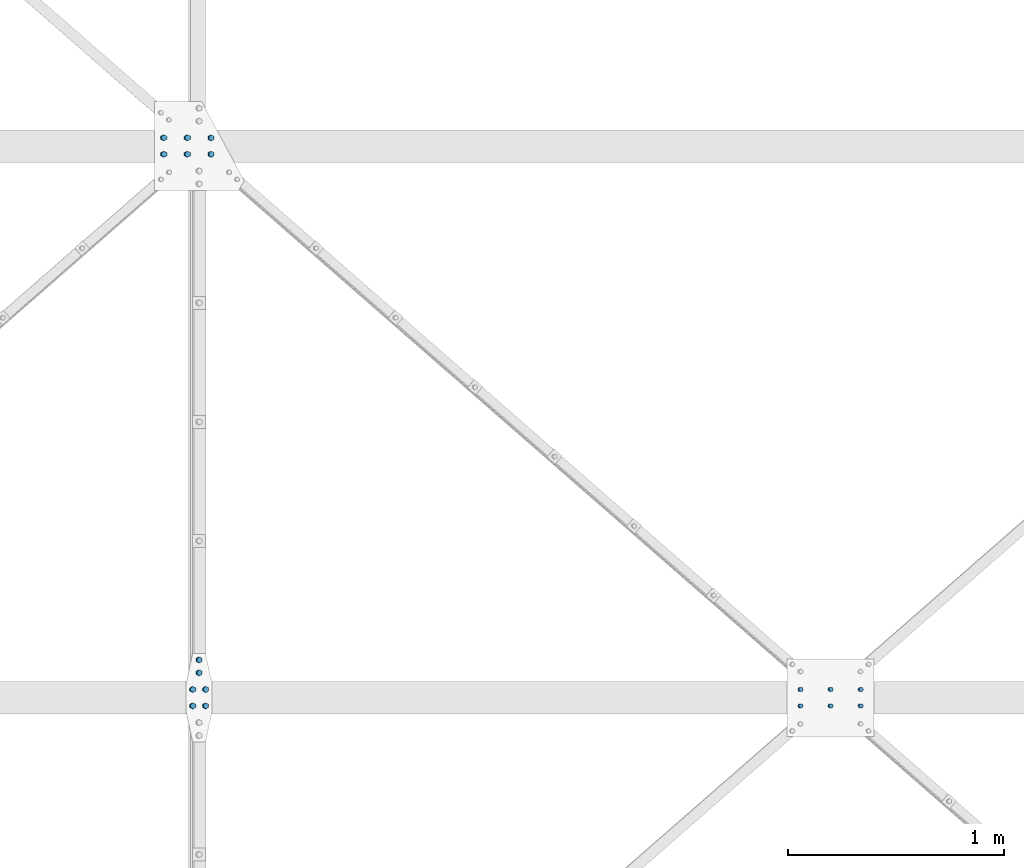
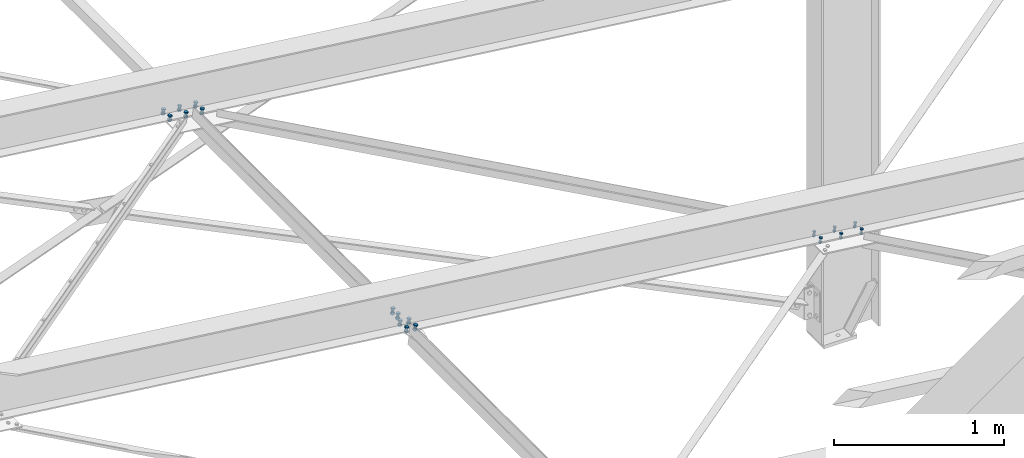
# One storey, part 122 of 3134: 4 mechanical fasteners, 4 elements without a shape of their own.
"""IFC2X3 building model written with IfcOpenShell, lengths in millimetres."""

from ifc_helpers import new_model, si_unit, frame, origin_with_axes, place, context, subcontext, project, spatial, faceted_brep, source, transform, mapped, material, type_object, element, aggregate, save


model = new_model("IFC2X3")

# Units and contexts
model_context = context("Model", 3, precision=1e-05, world=origin_with_axes())
body_context = subcontext(model_context, "Body", "Model", "MODEL_VIEW")
ifc_project = project(units=[si_unit("LENGTHUNIT", "METRE", prefix="MILLI"), si_unit("AREAUNIT", "SQUARE_METRE"), si_unit("VOLUMEUNIT", "CUBIC_METRE"), si_unit("MASSUNIT", "GRAM", prefix="KILO"), si_unit("TIMEUNIT", "SECOND"), si_unit("PLANEANGLEUNIT", "RADIAN"), si_unit("SOLIDANGLEUNIT", "STERADIAN"), si_unit("THERMODYNAMICTEMPERATUREUNIT", "DEGREE_CELSIUS"), si_unit("LUMINOUSINTENSITYUNIT", "LUMEN")], contexts=[model_context])

# Site, building, storey
site_placement = place(None, origin_with_axes())
site = spatial("IfcSite", under=ifc_project, at=site_placement, CompositionType="ELEMENT")
building_placement = place(site_placement, origin_with_axes())
building = spatial("IfcBuilding", under=site, at=building_placement, Name="Undefined", CompositionType="ELEMENT")
storey_placement = place(building_placement, origin_with_axes())
storey = spatial("IfcBuildingStorey", under=building, at=storey_placement, Name="Undefined", CompositionType="ELEMENT", Elevation=0.0)

# Assembly, mechanical fastener
assembly_1_placement = place(storey_placement, origin_with_axes())
assembly_1 = element("IfcElementAssembly", 1, at=assembly_1_placement, inside=storey, AssemblyPlace="NOTDEFINED", PredefinedType="RIGID_FRAME")
ifc_material = material(Name="8.8")
mechanical_fastener_type = type_object("IfcMechanicalFastenerType", Name="Bolt assembly")
shared_shape_1 = source(origin_with_axes(), body_context, "Body", "Brep", [
    faceted_brep([(13.856406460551, -16.9990000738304, 0.0), (6.92820323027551, -16.9990000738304, 12.0), (-6.92820323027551, -16.9990000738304, 12.0), (-13.856406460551, -16.9990000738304, 1.69692038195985e-15), (-6.92820323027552, -16.9990000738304, -12.0), (6.9282032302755, -16.9990000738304, -12.0), (6.9282032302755, -6.99900007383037, -12.0), (-6.92820323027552, -6.99900007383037, -12.0), (-13.856406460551, -6.99900007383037, 1.69692038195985e-15), (-6.92820323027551, -6.99900007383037, 12.0), (6.92820323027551, -6.99900007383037, 12.0), (13.856406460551, -6.99900007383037, 0.0), (8.0, -6.99900007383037, 0.0), (6.92820323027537, -6.99900007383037, 4.00000000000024), (3.99999999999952, -6.99900007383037, 6.92820323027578), (-8.29068785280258e-13, -6.99900007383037, 8.0), (-4.00000000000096, -6.99900007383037, 6.92820323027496), (-6.9282032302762, -6.99900007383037, 3.99999999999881), (-8.0, -6.99900007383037, -1.65813757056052e-12), (-6.92820323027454, -6.99900007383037, -4.00000000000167), (-3.99999999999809, -6.99900007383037, -6.92820323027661), (2.47832457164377e-12, -6.99900007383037, -8.0), (4.00000000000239, -6.99900007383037, -6.92820323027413), (6.92820323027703, -6.99900007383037, -3.99999999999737), (6.92820323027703, 33.0009999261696, -3.99999999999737), (4.00000000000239, 33.0009999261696, -6.92820323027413), (2.47832457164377e-12, 33.0009999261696, -8.0), (-3.99999999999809, 33.0009999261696, -6.92820323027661), (-6.92820323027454, 33.0009999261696, -4.00000000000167), (-8.0, 33.0009999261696, -1.65813757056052e-12), (-6.9282032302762, 33.0009999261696, 3.99999999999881), (-4.00000000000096, 33.0009999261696, 6.92820323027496), (-8.29068785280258e-13, 33.0009999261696, 8.0), (3.99999999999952, 33.0009999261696, 6.92820323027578), (6.92820323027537, 33.0009999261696, 4.00000000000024), (8.0, 33.0009999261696, 0.0), (13.856406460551, 14.9990000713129, 0.0), (6.92820323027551, 14.9990000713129, 12.0), (-6.92820323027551, 14.9990000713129, 12.0), (-13.856406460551, 14.9990000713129, 1.69692038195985e-15), (-6.92820323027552, 14.9990000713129, -12.0), (6.9282032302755, 14.9990000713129, -12.0), (6.9282032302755, 27.9990000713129, -12.0), (-6.92820323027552, 27.9990000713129, -12.0), (-13.856406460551, 27.9990000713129, 1.69692038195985e-15), (-6.92820323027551, 27.9990000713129, 12.0), (6.92820323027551, 27.9990000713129, 12.0), (13.856406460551, 27.9990000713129, 0.0)], [[[0, 1, 2, 3, 4, 5]], [[6, 7, 8, 9, 10, 11]], [[0, 11, 10, 1]], [[1, 10, 9, 2]], [[2, 9, 8, 3]], [[3, 8, 7, 4]], [[4, 7, 6, 5]], [[5, 6, 11, 0]], [[12, 13, 14, 15, 16, 17, 18, 19, 20, 21, 22, 23]], [[24, 25, 26, 27, 28, 29, 30, 31, 32, 33, 34, 35]], [[12, 35, 34, 13]], [[13, 34, 33, 14]], [[14, 33, 32, 15]], [[15, 32, 31, 16]], [[16, 31, 30, 17]], [[17, 30, 29, 18]], [[18, 29, 28, 19]], [[19, 28, 27, 20]], [[20, 27, 26, 21]], [[21, 26, 25, 22]], [[22, 25, 24, 23]], [[23, 24, 35, 12]], [[36, 37, 38, 39, 40, 41]], [[42, 43, 44, 45, 46, 47]], [[36, 47, 46, 37]], [[37, 46, 45, 38]], [[38, 45, 44, 39]], [[39, 44, 43, 40]], [[40, 43, 42, 41]], [[41, 42, 47, 36]]]),
    faceted_brep([(9.0, -3.46568413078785e-07, 0.0), (7.79422863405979, -3.46568413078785e-07, 4.50000000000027), (4.49999999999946, -3.46568413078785e-07, 7.79422863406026), (-9.3270238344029e-13, -3.46568413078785e-07, 9.0), (-4.50000000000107, -3.46568413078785e-07, 7.79422863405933), (-7.79422863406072, -3.46568413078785e-07, 4.49999999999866), (-9.0, -3.46568413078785e-07, -1.86540476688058e-12), (-7.79422863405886, -3.46568413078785e-07, -4.50000000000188), (-4.49999999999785, -3.46568413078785e-07, -7.79422863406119), (2.78811514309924e-12, -3.46568413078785e-07, -9.0), (4.50000000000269, -3.46568413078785e-07, -7.7942286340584), (7.79422863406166, -3.46568413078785e-07, -4.49999999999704), (7.79422863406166, 8.00000000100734, -4.49999999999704), (4.50000000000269, 8.00000000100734, -7.7942286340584), (2.78811514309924e-12, 8.00000000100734, -9.0), (-4.49999999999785, 8.00000000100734, -7.79422863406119), (-7.79422863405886, 8.00000000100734, -4.50000000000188), (-9.0, 8.00000000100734, -1.86540476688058e-12), (-7.79422863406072, 8.00000000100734, 4.49999999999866), (-4.50000000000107, 8.00000000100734, 7.79422863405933), (-9.3270238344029e-13, 8.00000000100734, 9.0), (4.49999999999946, 8.00000000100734, 7.79422863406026), (7.79422863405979, 8.00000000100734, 4.50000000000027), (9.0, 8.00000000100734, 0.0), (9.0, -6.89900007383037, 0.0), (7.79422863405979, -6.89900007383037, 4.50000000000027), (4.49999999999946, -6.89900007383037, 7.79422863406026), (-9.3270238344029e-13, -6.89900007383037, 9.0), (-4.50000000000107, -6.89900007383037, 7.79422863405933), (-7.79422863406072, -6.89900007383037, 4.49999999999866), (-9.0, -6.89900007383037, -1.86540476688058e-12), (-7.79422863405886, -6.89900007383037, -4.50000000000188), (-4.49999999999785, -6.89900007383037, -7.79422863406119), (2.78811514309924e-12, -6.89900007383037, -9.0), (4.50000000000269, -6.89900007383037, -7.7942286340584), (7.79422863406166, -6.89900007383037, -4.49999999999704), (7.79422863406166, 0.100999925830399, -4.49999999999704), (4.50000000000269, 0.100999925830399, -7.7942286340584), (2.78811514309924e-12, 0.100999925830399, -9.0), (-4.49999999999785, 0.100999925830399, -7.79422863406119), (-7.79422863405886, 0.100999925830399, -4.50000000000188), (-9.0, 0.100999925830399, -1.86540476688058e-12), (-7.79422863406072, 0.100999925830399, 4.49999999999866), (-4.50000000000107, 0.100999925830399, 7.79422863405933), (-9.3270238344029e-13, 0.100999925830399, 9.0), (4.49999999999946, 0.100999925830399, 7.79422863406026), (7.79422863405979, 0.100999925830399, 4.50000000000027), (9.0, 0.100999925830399, 0.0), (9.0, 7.89900007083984, 0.0), (7.79422863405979, 7.89900007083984, 4.50000000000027), (4.49999999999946, 7.89900007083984, 7.79422863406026), (-9.3270238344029e-13, 7.89900007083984, 9.0), (-4.50000000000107, 7.89900007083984, 7.79422863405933), (-7.79422863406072, 7.89900007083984, 4.49999999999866), (-9.0, 7.89900007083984, -1.86540476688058e-12), (-7.79422863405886, 7.89900007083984, -4.50000000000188), (-4.49999999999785, 7.89900007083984, -7.79422863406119), (2.78811514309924e-12, 7.89900007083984, -9.0), (4.50000000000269, 7.89900007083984, -7.7942286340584), (7.79422863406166, 7.89900007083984, -4.49999999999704), (7.79422863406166, 14.9990000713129, -4.49999999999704), (4.50000000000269, 14.9990000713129, -7.7942286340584), (2.78811514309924e-12, 14.9990000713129, -9.0), (-4.49999999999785, 14.9990000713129, -7.79422863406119), (-7.79422863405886, 14.9990000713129, -4.50000000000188), (-9.0, 14.9990000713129, -1.86540476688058e-12), (-7.79422863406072, 14.9990000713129, 4.49999999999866), (-4.50000000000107, 14.9990000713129, 7.79422863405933), (-9.3270238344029e-13, 14.9990000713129, 9.0), (4.49999999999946, 14.9990000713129, 7.79422863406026), (7.79422863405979, 14.9990000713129, 4.50000000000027), (9.0, 14.9990000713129, 0.0)], [[[0, 1, 2, 3, 4, 5, 6, 7, 8, 9, 10, 11]], [[12, 13, 14, 15, 16, 17, 18, 19, 20, 21, 22, 23]], [[0, 23, 22, 1]], [[1, 22, 21, 2]], [[2, 21, 20, 3]], [[3, 20, 19, 4]], [[4, 19, 18, 5]], [[5, 18, 17, 6]], [[6, 17, 16, 7]], [[7, 16, 15, 8]], [[8, 15, 14, 9]], [[9, 14, 13, 10]], [[10, 13, 12, 11]], [[11, 12, 23, 0]], [[24, 25, 26, 27, 28, 29, 30, 31, 32, 33, 34, 35]], [[36, 37, 38, 39, 40, 41, 42, 43, 44, 45, 46, 47]], [[24, 47, 46, 25]], [[25, 46, 45, 26]], [[26, 45, 44, 27]], [[27, 44, 43, 28]], [[28, 43, 42, 29]], [[29, 42, 41, 30]], [[30, 41, 40, 31]], [[31, 40, 39, 32]], [[32, 39, 38, 33]], [[33, 38, 37, 34]], [[34, 37, 36, 35]], [[35, 36, 47, 24]], [[48, 49, 50, 51, 52, 53, 54, 55, 56, 57, 58, 59]], [[60, 61, 62, 63, 64, 65, 66, 67, 68, 69, 70, 71]], [[48, 71, 70, 49]], [[49, 70, 69, 50]], [[50, 69, 68, 51]], [[51, 68, 67, 52]], [[52, 67, 66, 53]], [[53, 66, 65, 54]], [[54, 65, 64, 55]], [[55, 64, 63, 56]], [[56, 63, 62, 57]], [[57, 62, 61, 58]], [[58, 61, 60, 59]], [[59, 60, 71, 48]]]),
])
mechanical_fastener_1_placement = place(assembly_1_placement, frame((50037.9849612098, 2665.0, 4806.73358921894), z_axis=(-0.992623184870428, 0.0, 0.121240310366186), x_axis=(0.0, 1.0, 0.0)))
mechanical_fastener_1 = element("IfcMechanicalFastener", 2, at=mechanical_fastener_1_placement, type_object=mechanical_fastener_type, material=ifc_material, Name="Bolt assembly", NominalDiameter=16.0, NominalLength=40.0, context=body_context, shape_type="MappedRepresentation", body=[
    mapped(shared_shape_1, transform((0.0, 0.0, 0.0))),
    mapped(shared_shape_1, transform((59.9999999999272, 0.0, 5.40239852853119e-10))),
])
aggregate(assembly_1, [mechanical_fastener_1])

assembly_2_placement = place(storey_placement, origin_with_axes())
assembly_2 = element("IfcElementAssembly", 3, at=assembly_2_placement, inside=storey, Name="PL8", AssemblyPlace="NOTDEFINED", PredefinedType="RIGID_FRAME")
shared_shape_2 = source(origin_with_axes(), body_context, "Body", "Brep", [
    faceted_brep([(13.856406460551, -19.2001597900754, 0.0), (6.92820323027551, -19.2001597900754, 12.0), (-6.92820323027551, -19.2001597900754, 12.0), (-13.856406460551, -19.2001597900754, 1.69692038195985e-15), (-6.92820323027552, -19.2001597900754, -12.0), (6.9282032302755, -19.2001597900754, -12.0), (6.9282032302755, -9.20015979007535, -12.0), (-6.92820323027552, -9.20015979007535, -12.0), (-13.856406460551, -9.20015979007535, 1.69692038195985e-15), (-6.92820323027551, -9.20015979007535, 12.0), (6.92820323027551, -9.20015979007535, 12.0), (13.856406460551, -9.20015979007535, 0.0), (8.0, -9.20015979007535, 0.0), (6.92820323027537, -9.20015979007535, 4.00000000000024), (3.99999999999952, -9.20015979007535, 6.92820323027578), (-8.29068785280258e-13, -9.20015979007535, 8.0), (-4.00000000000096, -9.20015979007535, 6.92820323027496), (-6.9282032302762, -9.20015979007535, 3.99999999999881), (-8.0, -9.20015979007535, -1.65813757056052e-12), (-6.92820323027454, -9.20015979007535, -4.00000000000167), (-3.99999999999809, -9.20015979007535, -6.92820323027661), (2.47832457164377e-12, -9.20015979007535, -8.0), (4.00000000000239, -9.20015979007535, -6.92820323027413), (6.92820323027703, -9.20015979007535, -3.99999999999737), (6.92820323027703, 25.7998402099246, -3.99999999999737), (4.00000000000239, 25.7998402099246, -6.92820323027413), (2.47832457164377e-12, 25.7998402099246, -8.0), (-3.99999999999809, 25.7998402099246, -6.92820323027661), (-6.92820323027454, 25.7998402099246, -4.00000000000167), (-8.0, 25.7998402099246, -1.65813757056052e-12), (-6.9282032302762, 25.7998402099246, 3.99999999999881), (-4.00000000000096, 25.7998402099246, 6.92820323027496), (-8.29068785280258e-13, 25.7998402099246, 8.0), (3.99999999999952, 25.7998402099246, 6.92820323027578), (6.92820323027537, 25.7998402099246, 4.00000000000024), (8.0, 25.7998402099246, 0.0), (13.856406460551, 7.9998399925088, 0.0), (6.92820323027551, 7.9998399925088, 12.0), (-6.92820323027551, 7.9998399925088, 12.0), (-13.856406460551, 7.9998399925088, 1.69692038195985e-15), (-6.92820323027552, 7.9998399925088, -12.0), (6.9282032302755, 7.9998399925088, -12.0), (6.9282032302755, 20.9998399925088, -12.0), (-6.92820323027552, 20.9998399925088, -12.0), (-13.856406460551, 20.9998399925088, 1.69692038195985e-15), (-6.92820323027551, 20.9998399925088, 12.0), (6.92820323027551, 20.9998399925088, 12.0), (13.856406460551, 20.9998399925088, 0.0)], [[[0, 1, 2, 3, 4, 5]], [[6, 7, 8, 9, 10, 11]], [[0, 11, 10, 1]], [[1, 10, 9, 2]], [[2, 9, 8, 3]], [[3, 8, 7, 4]], [[4, 7, 6, 5]], [[5, 6, 11, 0]], [[12, 13, 14, 15, 16, 17, 18, 19, 20, 21, 22, 23]], [[24, 25, 26, 27, 28, 29, 30, 31, 32, 33, 34, 35]], [[12, 35, 34, 13]], [[13, 34, 33, 14]], [[14, 33, 32, 15]], [[15, 32, 31, 16]], [[16, 31, 30, 17]], [[17, 30, 29, 18]], [[18, 29, 28, 19]], [[19, 28, 27, 20]], [[20, 27, 26, 21]], [[21, 26, 25, 22]], [[22, 25, 24, 23]], [[23, 24, 35, 12]], [[36, 37, 38, 39, 40, 41]], [[42, 43, 44, 45, 46, 47]], [[36, 47, 46, 37]], [[37, 46, 45, 38]], [[38, 45, 44, 39]], [[39, 44, 43, 40]], [[40, 43, 42, 41]], [[41, 42, 47, 36]]]),
    faceted_brep([(9.0, -9.10015979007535, 0.0), (7.79422863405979, -9.10015979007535, 4.50000000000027), (4.49999999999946, -9.10015979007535, 7.79422863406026), (-9.3270238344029e-13, -9.10015979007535, 9.0), (-4.50000000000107, -9.10015979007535, 7.79422863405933), (-7.79422863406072, -9.10015979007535, 4.49999999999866), (-9.0, -9.10015979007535, -1.86540476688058e-12), (-7.79422863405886, -9.10015979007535, -4.50000000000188), (-4.49999999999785, -9.10015979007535, -7.79422863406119), (2.78811514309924e-12, -9.10015979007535, -9.0), (4.50000000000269, -9.10015979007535, -7.7942286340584), (7.79422863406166, -9.10015979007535, -4.49999999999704), (7.79422863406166, 0.0998400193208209, -4.49999999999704), (4.50000000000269, 0.0998400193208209, -7.7942286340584), (2.78811514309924e-12, 0.0998400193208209, -9.0), (-4.49999999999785, 0.0998400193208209, -7.79422863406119), (-7.79422863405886, 0.0998400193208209, -4.50000000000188), (-9.0, 0.0998400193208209, -1.86540476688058e-12), (-7.79422863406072, 0.0998400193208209, 4.49999999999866), (-4.50000000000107, 0.0998400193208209, 7.79422863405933), (-9.3270238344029e-13, 0.0998400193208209, 9.0), (4.49999999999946, 0.0998400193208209, 7.79422863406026), (7.79422863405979, 0.0998400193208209, 4.50000000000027), (9.0, 0.0998400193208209, 0.0), (9.0, -0.100160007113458, 0.0), (7.79422863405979, -0.100160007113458, 4.50000000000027), (4.49999999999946, -0.100160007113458, 7.79422863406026), (-9.3270238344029e-13, -0.100160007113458, 9.0), (-4.50000000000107, -0.100160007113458, 7.79422863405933), (-7.79422863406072, -0.100160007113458, 4.49999999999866), (-9.0, -0.100160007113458, -1.86540476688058e-12), (-7.79422863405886, -0.100160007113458, -4.50000000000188), (-4.49999999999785, -0.100160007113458, -7.79422863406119), (2.78811514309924e-12, -0.100160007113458, -9.0), (4.50000000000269, -0.100160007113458, -7.7942286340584), (7.79422863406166, -0.100160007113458, -4.49999999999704), (7.79422863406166, 7.9998399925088, -4.49999999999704), (4.50000000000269, 7.9998399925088, -7.7942286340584), (2.78811514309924e-12, 7.9998399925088, -9.0), (-4.49999999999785, 7.9998399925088, -7.79422863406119), (-7.79422863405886, 7.9998399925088, -4.50000000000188), (-9.0, 7.9998399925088, -1.86540476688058e-12), (-7.79422863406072, 7.9998399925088, 4.49999999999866), (-4.50000000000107, 7.9998399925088, 7.79422863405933), (-9.3270238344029e-13, 7.9998399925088, 9.0), (4.49999999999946, 7.9998399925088, 7.79422863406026), (7.79422863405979, 7.9998399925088, 4.50000000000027), (9.0, 7.9998399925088, 0.0)], [[[0, 1, 2, 3, 4, 5, 6, 7, 8, 9, 10, 11]], [[12, 13, 14, 15, 16, 17, 18, 19, 20, 21, 22, 23]], [[0, 23, 22, 1]], [[1, 22, 21, 2]], [[2, 21, 20, 3]], [[3, 20, 19, 4]], [[4, 19, 18, 5]], [[5, 18, 17, 6]], [[6, 17, 16, 7]], [[7, 16, 15, 8]], [[8, 15, 14, 9]], [[9, 14, 13, 10]], [[10, 13, 12, 11]], [[11, 12, 23, 0]], [[24, 25, 26, 27, 28, 29, 30, 31, 32, 33, 34, 35]], [[36, 37, 38, 39, 40, 41, 42, 43, 44, 45, 46, 47]], [[24, 47, 46, 25]], [[25, 46, 45, 26]], [[26, 45, 44, 27]], [[27, 44, 43, 28]], [[28, 43, 42, 29]], [[29, 42, 41, 30]], [[30, 41, 40, 31]], [[31, 40, 39, 32]], [[32, 39, 38, 33]], [[33, 38, 37, 34]], [[34, 37, 36, 35]], [[35, 36, 47, 24]]]),
])
mechanical_fastener_2_placement = place(assembly_2_placement, frame((50037.984961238, 2512.0, 4806.73358921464), z_axis=(-0.992622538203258, 0.0, 0.121245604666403), x_axis=(0.0, 1.0, 0.0)))
mechanical_fastener_2 = element("IfcMechanicalFastener", 4, at=mechanical_fastener_2_placement, type_object=mechanical_fastener_type, material=ifc_material, Name="Bolt assembly", NominalDiameter=16.0, NominalLength=35.0, context=body_context, shape_type="MappedRepresentation", body=[
    mapped(shared_shape_2, transform((0.0, 4.54747350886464e-13, -30.0000000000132))),
    mapped(shared_shape_2, transform((76.0, -2.00088834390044e-10, -29.9999999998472))),
    mapped(shared_shape_2, transform((0.0, 4.54747350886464e-13, 30.0000000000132))),
    mapped(shared_shape_2, transform((76.0, 1.98269844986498e-10, 29.9999999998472))),
])
aggregate(assembly_2, [mechanical_fastener_2])

assembly_3_placement = place(storey_placement, origin_with_axes())
assembly_3 = element("IfcElementAssembly", 5, at=assembly_3_placement, inside=storey, Name="300", AssemblyPlace="NOTDEFINED", PredefinedType="RIGID_FRAME")
shared_shape_3 = source(origin_with_axes(), body_context, "Body", "Brep", [
    faceted_brep([(13.856406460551, -19.199990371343, 0.0), (6.92820323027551, -19.199990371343, 12.0), (-6.92820323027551, -19.199990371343, 12.0), (-13.856406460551, -19.199990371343, 1.69692038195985e-15), (-6.92820323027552, -19.199990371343, -12.0), (6.9282032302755, -19.199990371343, -12.0), (6.9282032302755, -9.19999037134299, -12.0), (-6.92820323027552, -9.19999037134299, -12.0), (-13.856406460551, -9.19999037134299, 1.69692038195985e-15), (-6.92820323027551, -9.19999037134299, 12.0), (6.92820323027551, -9.19999037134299, 12.0), (13.856406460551, -9.19999037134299, 0.0), (8.0, -9.19999037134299, 0.0), (6.92820323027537, -9.19999037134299, 4.00000000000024), (3.99999999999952, -9.19999037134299, 6.92820323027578), (-8.29068785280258e-13, -9.19999037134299, 8.0), (-4.00000000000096, -9.19999037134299, 6.92820323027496), (-6.9282032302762, -9.19999037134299, 3.99999999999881), (-8.0, -9.19999037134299, -1.65813757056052e-12), (-6.92820323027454, -9.19999037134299, -4.00000000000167), (-3.99999999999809, -9.19999037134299, -6.92820323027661), (2.47832457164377e-12, -9.19999037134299, -8.0), (4.00000000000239, -9.19999037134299, -6.92820323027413), (6.92820323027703, -9.19999037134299, -3.99999999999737), (6.92820323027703, 25.800009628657, -3.99999999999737), (4.00000000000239, 25.800009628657, -6.92820323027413), (2.47832457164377e-12, 25.800009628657, -8.0), (-3.99999999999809, 25.800009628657, -6.92820323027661), (-6.92820323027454, 25.800009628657, -4.00000000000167), (-8.0, 25.800009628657, -1.65813757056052e-12), (-6.9282032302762, 25.800009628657, 3.99999999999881), (-4.00000000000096, 25.800009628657, 6.92820323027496), (-8.29068785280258e-13, 25.800009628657, 8.0), (3.99999999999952, 25.800009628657, 6.92820323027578), (6.92820323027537, 25.800009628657, 4.00000000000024), (8.0, 25.800009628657, 0.0), (13.856406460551, 8.00000637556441, 0.0), (6.92820323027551, 8.00000637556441, 12.0), (-6.92820323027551, 8.00000637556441, 12.0), (-13.856406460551, 8.00000637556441, 1.69692038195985e-15), (-6.92820323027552, 8.00000637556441, -12.0), (6.9282032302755, 8.00000637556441, -12.0), (6.9282032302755, 21.0000063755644, -12.0), (-6.92820323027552, 21.0000063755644, -12.0), (-13.856406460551, 21.0000063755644, 1.69692038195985e-15), (-6.92820323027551, 21.0000063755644, 12.0), (6.92820323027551, 21.0000063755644, 12.0), (13.856406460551, 21.0000063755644, 0.0)], [[[0, 1, 2, 3, 4, 5]], [[6, 7, 8, 9, 10, 11]], [[0, 11, 10, 1]], [[1, 10, 9, 2]], [[2, 9, 8, 3]], [[3, 8, 7, 4]], [[4, 7, 6, 5]], [[5, 6, 11, 0]], [[12, 13, 14, 15, 16, 17, 18, 19, 20, 21, 22, 23]], [[24, 25, 26, 27, 28, 29, 30, 31, 32, 33, 34, 35]], [[12, 35, 34, 13]], [[13, 34, 33, 14]], [[14, 33, 32, 15]], [[15, 32, 31, 16]], [[16, 31, 30, 17]], [[17, 30, 29, 18]], [[18, 29, 28, 19]], [[19, 28, 27, 20]], [[20, 27, 26, 21]], [[21, 26, 25, 22]], [[22, 25, 24, 23]], [[23, 24, 35, 12]], [[36, 37, 38, 39, 40, 41]], [[42, 43, 44, 45, 46, 47]], [[36, 47, 46, 37]], [[37, 46, 45, 38]], [[38, 45, 44, 39]], [[39, 44, 43, 40]], [[40, 43, 42, 41]], [[41, 42, 47, 36]]]),
    faceted_brep([(9.0, -0.1, 0.0), (7.79422863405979, -0.1, 4.50000000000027), (4.49999999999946, -0.1, 7.79422863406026), (-9.3270238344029e-13, -0.1, 9.0), (-4.50000000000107, -0.1, 7.79422863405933), (-7.79422863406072, -0.1, 4.49999999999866), (-9.0, -0.1, -1.86540476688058e-12), (-7.79422863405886, -0.1, -4.50000000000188), (-4.49999999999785, -0.1, -7.79422863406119), (2.78811514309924e-12, -0.1, -9.0), (4.50000000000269, -0.1, -7.7942286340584), (7.79422863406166, -0.1, -4.49999999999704), (7.79422863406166, 8.00000000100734, -4.49999999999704), (4.50000000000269, 8.00000000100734, -7.7942286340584), (2.78811514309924e-12, 8.00000000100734, -9.0), (-4.49999999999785, 8.00000000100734, -7.79422863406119), (-7.79422863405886, 8.00000000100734, -4.50000000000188), (-9.0, 8.00000000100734, -1.86540476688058e-12), (-7.79422863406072, 8.00000000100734, 4.49999999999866), (-4.50000000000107, 8.00000000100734, 7.79422863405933), (-9.3270238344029e-13, 8.00000000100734, 9.0), (4.49999999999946, 8.00000000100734, 7.79422863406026), (7.79422863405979, 8.00000000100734, 4.50000000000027), (9.0, 8.00000000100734, 0.0), (9.0, -9.09999037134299, 0.0), (7.79422863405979, -9.09999037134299, 4.50000000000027), (4.49999999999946, -9.09999037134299, 7.79422863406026), (-9.3270238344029e-13, -9.09999037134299, 9.0), (-4.50000000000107, -9.09999037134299, 7.79422863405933), (-7.79422863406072, -9.09999037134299, 4.49999999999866), (-9.0, -9.09999037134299, -1.86540476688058e-12), (-7.79422863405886, -9.09999037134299, -4.50000000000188), (-4.49999999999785, -9.09999037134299, -7.79422863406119), (2.78811514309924e-12, -9.09999037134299, -9.0), (4.50000000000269, -9.09999037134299, -7.7942286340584), (7.79422863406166, -9.09999037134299, -4.49999999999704), (7.79422863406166, 0.100000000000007, -4.49999999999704), (4.50000000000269, 0.100000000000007, -7.7942286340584), (2.78811514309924e-12, 0.100000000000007, -9.0), (-4.49999999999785, 0.100000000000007, -7.79422863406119), (-7.79422863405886, 0.100000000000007, -4.50000000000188), (-9.0, 0.100000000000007, -1.86540476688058e-12), (-7.79422863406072, 0.100000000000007, 4.49999999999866), (-4.50000000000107, 0.100000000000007, 7.79422863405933), (-9.3270238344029e-13, 0.100000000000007, 9.0), (4.49999999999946, 0.100000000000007, 7.79422863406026), (7.79422863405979, 0.100000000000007, 4.50000000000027), (9.0, 0.100000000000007, 0.0)], [[[0, 1, 2, 3, 4, 5, 6, 7, 8, 9, 10, 11]], [[12, 13, 14, 15, 16, 17, 18, 19, 20, 21, 22, 23]], [[0, 23, 22, 1]], [[1, 22, 21, 2]], [[2, 21, 20, 3]], [[3, 20, 19, 4]], [[4, 19, 18, 5]], [[5, 18, 17, 6]], [[6, 17, 16, 7]], [[7, 16, 15, 8]], [[8, 15, 14, 9]], [[9, 14, 13, 10]], [[10, 13, 12, 11]], [[11, 12, 23, 0]], [[24, 25, 26, 27, 28, 29, 30, 31, 32, 33, 34, 35]], [[36, 37, 38, 39, 40, 41, 42, 43, 44, 45, 46, 47]], [[24, 47, 46, 25]], [[25, 46, 45, 26]], [[26, 45, 44, 27]], [[27, 44, 43, 28]], [[28, 43, 42, 29]], [[29, 42, 41, 30]], [[30, 41, 40, 31]], [[31, 40, 39, 32]], [[32, 39, 38, 33]], [[33, 38, 37, 34]], [[34, 37, 36, 35]], [[35, 36, 47, 24]]]),
])
mechanical_fastener_3_placement = place(assembly_3_placement, frame((49983.3906860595, 5062.0, 4813.40180628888), z_axis=(-0.992623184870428, 0.0, 0.121240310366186), x_axis=(0.0, 1.0, 0.0)))
mechanical_fastener_3 = element("IfcMechanicalFastener", 6, at=mechanical_fastener_3_placement, type_object=mechanical_fastener_type, material=ifc_material, Name="Bolt assembly", NominalDiameter=16.0, NominalLength=35.0, context=body_context, shape_type="MappedRepresentation", body=[
    mapped(shared_shape_3, transform((0.0, 1.8644641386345e-10, -109.999999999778))),
    mapped(shared_shape_3, transform((76.0, 1.8644641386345e-10, -109.999999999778))),
    mapped(shared_shape_3, transform((0.0, 0.0, 0.0))),
    mapped(shared_shape_3, transform((76.0, 0.0, 0.0))),
    mapped(shared_shape_3, transform((0.0, -1.8644641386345e-10, 109.999999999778))),
    mapped(shared_shape_3, transform((76.0, -1.8644641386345e-10, 109.999999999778))),
])
aggregate(assembly_3, [mechanical_fastener_3])

assembly_4_placement = place(storey_placement, origin_with_axes())
assembly_4 = element("IfcElementAssembly", 7, at=assembly_4_placement, inside=storey, Name="300", AssemblyPlace="NOTDEFINED", PredefinedType="RIGID_FRAME")
shared_shape_4 = source(origin_with_axes(), body_context, "Body", "Brep", [
    faceted_brep([(10.9696551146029, -17.1999998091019, 0.0), (5.48482755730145, -17.1999998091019, 9.5), (-5.48482755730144, -17.1999998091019, 9.5), (-10.9696551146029, -17.1999998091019, 1.34339530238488e-15), (-5.48482755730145, -17.1999998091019, -9.5), (5.48482755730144, -17.1999998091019, -9.50000000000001), (5.48482755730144, -9.19999978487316, -9.50000000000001), (-5.48482755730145, -9.19999978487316, -9.5), (-10.9696551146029, -9.19999978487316, 1.34339530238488e-15), (-5.48482755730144, -9.19999978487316, 9.5), (5.48482755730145, -9.19999978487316, 9.5), (10.9696551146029, -9.19999978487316, 0.0), (6.0, -9.19999978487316, 0.0), (5.19615242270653, -9.19999978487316, 3.00000000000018), (2.99999999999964, -9.19999978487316, 5.19615242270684), (-6.21801588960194e-13, -9.19999978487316, 6.0), (-3.00000000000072, -9.19999978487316, 5.19615242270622), (-5.19615242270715, -9.19999978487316, 2.9999999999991), (-6.0, -9.19999978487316, -1.24360317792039e-12), (-5.19615242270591, -9.19999978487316, -3.00000000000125), (-2.99999999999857, -9.19999978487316, -5.19615242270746), (1.85874342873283e-12, -9.19999978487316, -6.0), (3.00000000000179, -9.19999978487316, -5.1961524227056), (5.19615242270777, -9.19999978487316, -2.99999999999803), (5.19615242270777, 25.8000002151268, -2.99999999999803), (3.00000000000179, 25.8000002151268, -5.1961524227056), (1.85874342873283e-12, 25.8000002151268, -6.0), (-2.99999999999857, 25.8000002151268, -5.19615242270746), (-5.19615242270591, 25.8000002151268, -3.00000000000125), (-6.0, 25.8000002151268, -1.24360317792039e-12), (-5.19615242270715, 25.8000002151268, 2.9999999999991), (-3.00000000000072, 25.8000002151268, 5.19615242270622), (-6.21801588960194e-13, 25.8000002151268, 6.0), (2.99999999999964, 25.8000002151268, 5.19615242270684), (5.19615242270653, 25.8000002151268, 3.00000000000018), (6.0, 25.8000002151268, 0.0), (10.9696551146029, 8.0, 0.0), (5.48482755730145, 8.0, 9.5), (-5.48482755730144, 8.0, 9.5), (-10.9696551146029, 8.0, 1.34339530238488e-15), (-5.48482755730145, 8.0, -9.5), (5.48482755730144, 8.0, -9.50000000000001), (5.48482755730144, 18.0, -9.50000000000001), (-5.48482755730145, 18.0, -9.5), (-10.9696551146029, 18.0, 1.34339530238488e-15), (-5.48482755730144, 18.0, 9.5), (5.48482755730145, 18.0, 9.5), (10.9696551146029, 18.0, 0.0)], [[[0, 1, 2, 3, 4, 5]], [[6, 7, 8, 9, 10, 11]], [[0, 11, 10, 1]], [[1, 10, 9, 2]], [[2, 9, 8, 3]], [[3, 8, 7, 4]], [[4, 7, 6, 5]], [[5, 6, 11, 0]], [[12, 13, 14, 15, 16, 17, 18, 19, 20, 21, 22, 23]], [[24, 25, 26, 27, 28, 29, 30, 31, 32, 33, 34, 35]], [[12, 35, 34, 13]], [[13, 34, 33, 14]], [[14, 33, 32, 15]], [[15, 32, 31, 16]], [[16, 31, 30, 17]], [[17, 30, 29, 18]], [[18, 29, 28, 19]], [[19, 28, 27, 20]], [[20, 27, 26, 21]], [[21, 26, 25, 22]], [[22, 25, 24, 23]], [[23, 24, 35, 12]], [[36, 37, 38, 39, 40, 41]], [[42, 43, 44, 45, 46, 47]], [[36, 47, 46, 37]], [[37, 46, 45, 38]], [[38, 45, 44, 39]], [[39, 44, 43, 40]], [[40, 43, 42, 41]], [[41, 42, 47, 36]]]),
    faceted_brep([(7.0, -0.1, 0.0), (6.06217782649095, -0.1, 3.50000000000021), (3.49999999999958, -0.1, 6.06217782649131), (-7.25435187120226e-13, -0.1, 7.0), (-3.50000000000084, -0.1, 6.06217782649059), (-6.06217782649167, -0.1, 3.49999999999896), (-7.0, -0.1, -1.45087037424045e-12), (-6.06217782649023, -0.1, -3.50000000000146), (-3.49999999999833, -0.1, -6.06217782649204), (2.1685340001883e-12, -0.1, -7.0), (3.50000000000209, -0.1, -6.06217782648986), (6.0621778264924, -0.1, -3.4999999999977), (6.0621778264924, 8.0000000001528, -3.4999999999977), (3.50000000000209, 8.0000000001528, -6.06217782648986), (2.1685340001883e-12, 8.0000000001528, -7.0), (-3.49999999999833, 8.0000000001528, -6.06217782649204), (-6.06217782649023, 8.0000000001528, -3.50000000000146), (-7.0, 8.0000000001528, -1.45087037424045e-12), (-6.06217782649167, 8.0000000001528, 3.49999999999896), (-3.50000000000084, 8.0000000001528, 6.06217782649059), (-7.25435187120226e-13, 8.0000000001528, 7.0), (3.49999999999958, 8.0000000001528, 6.06217782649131), (6.06217782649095, 8.0000000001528, 3.50000000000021), (7.0, 8.0000000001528, 0.0), (7.0, -9.09999980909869, 0.0), (6.06217782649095, -9.09999980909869, 3.50000000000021), (3.49999999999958, -9.09999980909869, 6.06217782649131), (-7.25435187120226e-13, -9.09999980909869, 7.0), (-3.50000000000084, -9.09999980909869, 6.06217782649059), (-6.06217782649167, -9.09999980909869, 3.49999999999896), (-7.0, -9.09999980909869, -1.45087037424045e-12), (-6.06217782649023, -9.09999980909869, -3.50000000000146), (-3.49999999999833, -9.09999980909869, -6.06217782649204), (2.1685340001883e-12, -9.09999980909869, -7.0), (3.50000000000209, -9.09999980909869, -6.06217782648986), (6.0621778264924, -9.09999980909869, -3.4999999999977), (6.0621778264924, 0.0999999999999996, -3.4999999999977), (3.50000000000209, 0.0999999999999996, -6.06217782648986), (2.1685340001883e-12, 0.0999999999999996, -7.0), (-3.49999999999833, 0.0999999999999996, -6.06217782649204), (-6.06217782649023, 0.0999999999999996, -3.50000000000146), (-7.0, 0.0999999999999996, -1.45087037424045e-12), (-6.06217782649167, 0.0999999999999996, 3.49999999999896), (-3.50000000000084, 0.0999999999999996, 6.06217782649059), (-7.25435187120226e-13, 0.0999999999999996, 7.0), (3.49999999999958, 0.0999999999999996, 6.06217782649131), (6.06217782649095, 0.0999999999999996, 3.50000000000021), (7.0, 0.0999999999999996, 0.0)], [[[0, 1, 2, 3, 4, 5, 6, 7, 8, 9, 10, 11]], [[12, 13, 14, 15, 16, 17, 18, 19, 20, 21, 22, 23]], [[0, 23, 22, 1]], [[1, 22, 21, 2]], [[2, 21, 20, 3]], [[3, 20, 19, 4]], [[4, 19, 18, 5]], [[5, 18, 17, 6]], [[6, 17, 16, 7]], [[7, 16, 15, 8]], [[8, 15, 14, 9]], [[9, 14, 13, 10]], [[10, 13, 12, 11]], [[11, 12, 23, 0]], [[24, 25, 26, 27, 28, 29, 30, 31, 32, 33, 34, 35]], [[36, 37, 38, 39, 40, 41, 42, 43, 44, 45, 46, 47]], [[24, 47, 46, 25]], [[25, 46, 45, 26]], [[26, 45, 44, 27]], [[27, 44, 43, 28]], [[28, 43, 42, 29]], [[29, 42, 41, 30]], [[30, 41, 40, 31]], [[31, 40, 39, 32]], [[32, 39, 38, 33]], [[33, 38, 37, 34]], [[34, 37, 36, 35]], [[35, 36, 47, 24]]]),
])
mechanical_fastener_4_placement = place(assembly_4_placement, frame((53095.7000422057, 2550.0, 4433.26021979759), z_axis=(0.0, -1.0, 0.0), x_axis=(-0.992623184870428, 0.0, 0.121240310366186)))
mechanical_fastener_4 = element("IfcMechanicalFastener", 8, at=mechanical_fastener_4_placement, type_object=mechanical_fastener_type, material=ifc_material, Name="Bolt assembly", NominalDiameter=12.0, NominalLength=35.0, context=body_context, shape_type="MappedRepresentation", body=[
    mapped(shared_shape_4, transform((0.0, 0.0, -38.0))),
    mapped(shared_shape_4, transform((140.000000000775, 5.85714587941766e-10, -38.0))),
    mapped(shared_shape_4, transform((279.999999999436, -4.74756234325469e-10, -38.0))),
    mapped(shared_shape_4, transform((0.0, 0.0, 38.0))),
    mapped(shared_shape_4, transform((140.000000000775, 5.85714587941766e-10, 38.0))),
    mapped(shared_shape_4, transform((279.999999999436, -4.74756234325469e-10, 38.0))),
])
aggregate(assembly_4, [mechanical_fastener_4])

save(model, "model.ifc")
